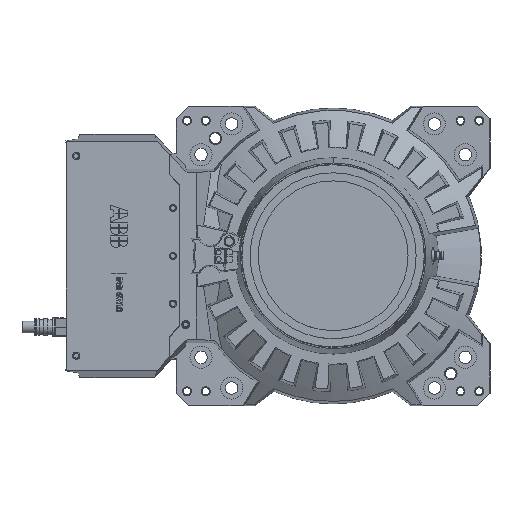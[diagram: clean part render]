
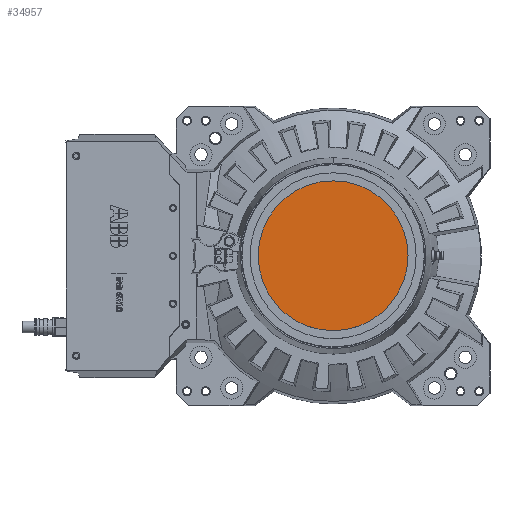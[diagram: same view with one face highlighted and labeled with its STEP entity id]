
A CAD part, top view. The second image highlights one B-rep face of the part: STEP entity #34957.
In plain terms, the highlighted planar face has unit normal (0, 0, 1).
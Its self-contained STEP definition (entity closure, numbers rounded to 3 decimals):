
#163 = AXIS2_PLACEMENT_3D ( 'NONE', #989, #14027, #777 ) ;
#777 = DIRECTION ( 'NONE',  ( -1., 0., 0. ) ) ;
#989 = CARTESIAN_POINT ( 'NONE',  ( 0., 0., 374. ) ) ;
#4278 = AXIS2_PLACEMENT_3D ( 'NONE', #40890, #11118, #31116 ) ;
#5671 = EDGE_LOOP ( 'NONE', ( #17182, #12728 ) ) ;
#11118 = DIRECTION ( 'NONE',  ( 0., 0., -1. ) ) ;
#11704 = EDGE_CURVE ( 'NONE', #25923, #11853, #40384, .T. ) ;
#11787 = CARTESIAN_POINT ( 'NONE',  ( 180., 0., 374. ) ) ;
#11853 = VERTEX_POINT ( 'NONE', #22652 ) ;
#12728 = ORIENTED_EDGE ( 'NONE', *, *, #11704, .F. ) ;
#14027 = DIRECTION ( 'NONE',  ( 0., 0., -1. ) ) ;
#15648 = AXIS2_PLACEMENT_3D ( 'NONE', #16692, #40814, #34049 ) ;
#16692 = CARTESIAN_POINT ( 'NONE',  ( -180., 0., 374. ) ) ;
#17182 = ORIENTED_EDGE ( 'NONE', *, *, #32215, .F. ) ;
#19544 = CIRCLE ( 'NONE', #4278, 180. ) ;
#22652 = CARTESIAN_POINT ( 'NONE',  ( -180., 0., 374. ) ) ;
#23659 = PLANE ( 'NONE',  #15648 ) ;
#25923 = VERTEX_POINT ( 'NONE', #11787 ) ;
#31116 = DIRECTION ( 'NONE',  ( -1., 0., 0. ) ) ;
#32215 = EDGE_CURVE ( 'NONE', #11853, #25923, #19544, .T. ) ;
#33655 = FACE_OUTER_BOUND ( 'NONE', #5671, .T. ) ;
#34049 = DIRECTION ( 'NONE',  ( 1., 0., 0. ) ) ;
#34957 = ADVANCED_FACE ( 'NONE', ( #33655 ), #23659, .T. ) ;
#40384 = CIRCLE ( 'NONE', #163, 180. ) ;
#40814 = DIRECTION ( 'NONE',  ( 0., 0., 1. ) ) ;
#40890 = CARTESIAN_POINT ( 'NONE',  ( 0., 0., 374. ) ) ;
